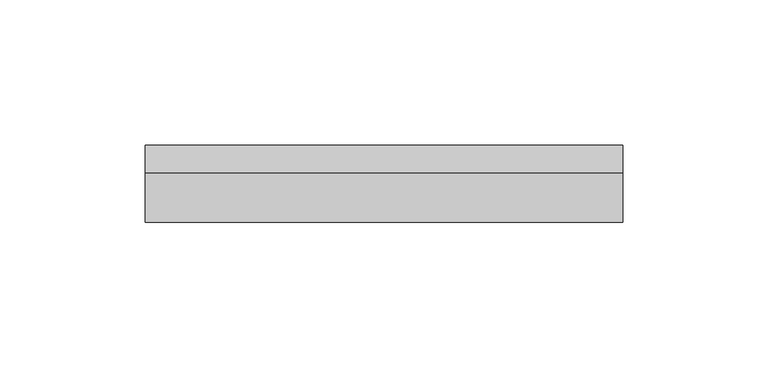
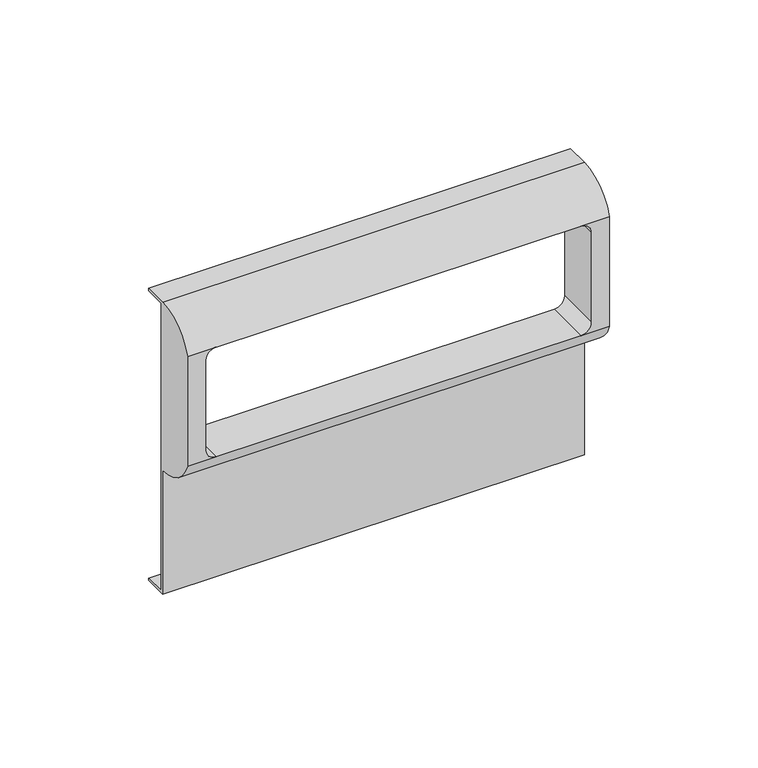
"""IFC4 building model written with IfcOpenShell, lengths in millimetres: proxy geometry, КНС_РамкаСуппорт_ILC_DKC : 45х45."""

from ifc_helpers import new_model, si_unit, frame, origin, place, context, project, spatial, polyline, circle_curve, source, transform, mapped, element, save
from ifc_brep_helpers import plane_surface, cylinder_surface, revolved_surface, advanced_brep


def electrical_fixtures_38645a5d(model_context):
    return source(origin(), model_context, "Body", "AdvancedBrep", [
        advanced_brep(
        [(82.0, 8.4, 59.0), (82.0, 8.4, 60.0), (82.0, -1.0, 60.0), (82.0, -18.0, 48.0), (82.0, -18.0, 3.0), (82.0, -1.0, -9.0), (82.0, -1.0, -60.0), (82.0, 8.4, -60.0), (82.0, 8.4, -59.0), (82.0, 0.0, -59.0), (82.0, 0.0, 59.0), (-82.0, 8.4, 59.0), (-82.0, 0.0, 59.0), (-82.0, 0.0, -59.0), (-82.0, 8.4, -59.0), (-82.0, 8.4, -60.0), (-82.0, -1.0, -60.0), (-82.0, -1.0, -9.0), (-82.0, -18.0, 3.0), (-82.0, -18.0, 48.0), (-82.0, -1.0, 60.0), (-82.0, 8.4, 60.0), (70.9686648, -18.0, 48.0), (75.0, -18.0, 43.9686648), (75.0, -18.0, 7.0313352), (70.9686648, -18.0, 3.0), (-70.9686648, -18.0, 3.0), (-75.0, -18.0, 7.0313352), (-75.0, -18.0, 43.9686648), (-70.9686648, -18.0, 48.0), (70.9686648, 0.0, 48.0), (-70.9686648, 0.0, 48.0), (-75.0, 0.0, 43.9686648), (-75.0, 0.0, 7.0313352), (-70.9686648, 0.0, 3.0), (70.9686648, 0.0, 3.0), (75.0, 0.0, 7.0313352), (75.0, 0.0, 43.9686648)],
        [
            (0, 1),
            (1, 2),
            (2, 3, circle_curve(frame((82.0, -1.0, 41.9583333), z_axis=(1.0, 0.0, 0.0), x_axis=(0.0, 1.0, 0.0)), 18.0416667)),
            (3, 4),
            (4, 5, circle_curve(frame((82.0, -1.0, 9.0416667), z_axis=(1.0, 0.0, 0.0), x_axis=(0.0, 1.0, 0.0)), 18.0416667)),
            (5, 6),
            (6, 7),
            (7, 8),
            (8, 9),
            (9, 10),
            (10, 0),
            (11, 12),
            (12, 13),
            (13, 14),
            (14, 15),
            (15, 16),
            (16, 17),
            (17, 18, circle_curve(frame((-82.0, -1.0, 9.0416667), z_axis=(-1.0, 0.0, 0.0), x_axis=(0.0, 1.0, 0.0)), 18.0416667)),
            (18, 19),
            (19, 20, circle_curve(frame((-82.0, -1.0, 41.9583333), z_axis=(-1.0, 0.0, 0.0), x_axis=(0.0, 1.0, 0.0)), 18.0416667)),
            (20, 21),
            (21, 11),
            (0, 11),
            (21, 1),
            (20, 2),
            (3, 22),
            (22, 23, circle_curve(frame((70.9686648, -18.0, 43.9686648), z_axis=(0.0, 1.0, 0.0), x_axis=(1.0, 0.0, 0.0)), 4.0313352)),
            (23, 24),
            (24, 25, circle_curve(frame((70.9686648, -18.0, 7.0313352), z_axis=(0.0, 1.0, 0.0), x_axis=(1.0, 0.0, 0.0)), 4.0313352)),
            (25, 4),
            (18, 26),
            (26, 27, circle_curve(frame((-70.9686648, -18.0, 7.0313352), z_axis=(0.0, 1.0, 0.0), x_axis=(1.0, 0.0, 0.0)), 4.0313352)),
            (27, 28),
            (28, 29, circle_curve(frame((-70.9686648, -18.0, 43.9686648), z_axis=(0.0, 1.0, 0.0), x_axis=(1.0, 0.0, 0.0)), 4.0313352)),
            (29, 19),
            (5, 17),
            (16, 6),
            (15, 7),
            (14, 8),
            (13, 9),
            (12, 10),
            (30, 31),
            (31, 32, circle_curve(frame((-70.9686648, 0.0, 43.9686648), z_axis=(0.0, -1.0, 0.0), x_axis=(1.0, 0.0, 0.0)), 4.0313352)),
            (32, 33),
            (33, 34, circle_curve(frame((-70.9686648, 0.0, 7.0313352), z_axis=(0.0, -1.0, 0.0), x_axis=(1.0, 0.0, 0.0)), 4.0313352)),
            (34, 35),
            (35, 36, circle_curve(frame((70.9686648, 0.0, 7.0313352), z_axis=(0.0, -1.0, 0.0), x_axis=(1.0, 0.0, 0.0)), 4.0313352)),
            (36, 37),
            (37, 30, circle_curve(frame((70.9686648, 0.0, 43.9686648), z_axis=(0.0, -1.0, 0.0), x_axis=(1.0, 0.0, 0.0)), 4.0313352)),
            (29, 22),
            (25, 26),
            (29, 31),
            (30, 22),
            (28, 32),
            (27, 33),
            (26, 34),
            (25, 35),
            (24, 36),
            (23, 37),
        ],
        [
            plane_surface(frame((82.0, 8.4, 60.0), z_axis=(1.0, 0.0, 0.0), x_axis=(0.0, 0.0, 1.0))),
            plane_surface(frame((-82.0, 8.4, 60.0), z_axis=(-1.0, 0.0, 0.0), x_axis=(0.0, 0.0, -1.0))),
            plane_surface(frame((82.0, 8.4, 59.0), z_axis=(0.0, 1.0, 0.0), x_axis=(-1.0, 0.0, 0.0))),
            plane_surface(frame((82.0, 8.4, 60.0), z_axis=(0.0, 0.0, 1.0), x_axis=(-1.0, 0.0, 0.0))),
            plane_surface(frame((82.0, -18.0, 48.0), z_axis=(0.0, -1.0, 0.0), x_axis=(-1.0, 0.0, 0.0))),
            plane_surface(frame((82.0, -1.0, -9.0), z_axis=(0.0, -1.0, 0.0), x_axis=(-1.0, 0.0, 0.0))),
            plane_surface(frame((82.0, -1.0, -60.0), z_axis=(0.0, 0.0, -1.0), x_axis=(-1.0, 0.0, 0.0))),
            plane_surface(frame((82.0, 8.4, -60.0), z_axis=(0.0, 1.0, 0.0), x_axis=(-1.0, 0.0, 0.0))),
            plane_surface(frame((82.0, 8.4, -59.0), z_axis=(0.0, 0.0, 1.0), x_axis=(-1.0, 0.0, 0.0))),
            plane_surface(frame((82.0, 0.0, -59.0), z_axis=(0.0, 1.0, 0.0), x_axis=(-1.0, 0.0, 0.0))),
            plane_surface(frame((82.0, 0.0, 59.0), z_axis=(0.0, 0.0, -1.0), x_axis=(-1.0, 0.0, 0.0))),
            cylinder_surface(frame((-82.0, -1.0, 41.9583333), z_axis=(1.0, 0.0, 0.0), x_axis=(0.0, 1.0, 0.0)), 18.0416667),
            cylinder_surface(frame((-82.0, -1.0, 9.0416667), z_axis=(1.0, 0.0, 0.0), x_axis=(0.0, 1.0, 0.0)), 18.0416667),
            plane_surface(frame((70.9686648, -18.0, 48.0), z_axis=(0.0, 0.0, -1.0), x_axis=(0.0, 1.0, 0.0))),
            revolved_surface(polyline([(-66.9373296, -18.0, 43.9686648), (-66.9373296, 0.0, 43.9686648)]), (-70.9686648, 0.0, 43.9686648), (0.0, -1.0, 0.0)),
            plane_surface(frame((-75.0, -18.0, 43.9686648), z_axis=(1.0, 0.0, 0.0), x_axis=(0.0, 1.0, 0.0))),
            revolved_surface(polyline([(-66.9373296, -18.0, 7.0313352), (-66.9373296, 0.0, 7.0313352)]), (-70.9686648, 0.0, 7.0313352), (0.0, -1.0, 0.0)),
            plane_surface(frame((-70.9686648, -18.0, 3.0), z_axis=(0.0, 0.0, 1.0), x_axis=(0.0, 1.0, 0.0))),
            revolved_surface(polyline([(75.0, -18.0, 7.0313352), (75.0, 0.0, 7.0313352)]), (70.9686648, 0.0, 7.0313352), (0.0, -1.0, 0.0)),
            plane_surface(frame((75.0, -18.0, 7.0313352), z_axis=(-1.0, 0.0, 0.0), x_axis=(0.0, 1.0, 0.0))),
            revolved_surface(polyline([(75.0, -18.0, 43.9686648), (75.0, 0.0, 43.9686648)]), (70.9686648, 0.0, 43.9686648), (0.0, -1.0, 0.0)),
        ],
        [
            (0, [[1, 2, 3, 4, 5, 6, 7, 8, 9, 10, 11]]),
            (1, [[12, 13, 14, 15, 16, 17, 18, 19, 20, 21, 22]]),
            (2, [[-1, 23, -22, 24]]),
            (3, [[-2, -24, -21, 25]]),
            (4, [[-4, 26, 27, 28, 29, 30]]),
            (4, [[-19, 31, 32, 33, 34, 35]]),
            (5, [[-6, 36, -17, 37]]),
            (6, [[-7, -37, -16, 38]]),
            (7, [[-8, -38, -15, 39]]),
            (8, [[-9, -39, -14, 40]]),
            (9, [[-10, -40, -13, 41], [42, 43, 44, 45, 46, 47, 48, 49]]),
            (10, [[-11, -41, -12, -23]]),
            (11, [[-3, -25, -20, -35, 50, -26]]),
            (12, [[-5, -30, 51, -31, -18, -36]]),
            (13, [[52, -42, 53, -50]]),
            (14, [[-52, -34, 54, -43]]),
            (15, [[-54, -33, 55, -44]]),
            (16, [[-55, -32, 56, -45]]),
            (17, [[-56, -51, 57, -46]]),
            (18, [[-57, -29, 58, -47]]),
            (19, [[-58, -28, 59, -48]]),
            (20, [[-53, -49, -59, -27]]),
        ],
    ),
    ])


if __name__ == "__main__":
    model = new_model("IFC4")
    model_context = context("Model", 3, world=origin())
    ifc_project = project(units=[si_unit("LENGTHUNIT", "METRE", prefix="MILLI")], contexts=[model_context])
    site = spatial("IfcSite", under=ifc_project)
    building = spatial("IfcBuilding", under=site)
    placement = place(None, origin())
    electrical_fixtures_shape = electrical_fixtures_38645a5d(model_context)
    element("IfcBuildingElementProxy", 1, Name="КНС_РамкаСуппорт_ILC_DKC : 45х45", ObjectType="КНС_РамкаСуппорт_ILC_DKC : 45х45", at=placement, inside=building, context=model_context, shape_type="MappedRepresentation", body=[
        mapped(electrical_fixtures_shape, transform((0.0, 0.0, 0.0), x_axis=(1.0, 0.0, 0.0), y_axis=(0.0, 1.0, 0.0), z_axis=(0.0, 0.0, 1.0))),
    ])
    save(model, "model.ifc")
